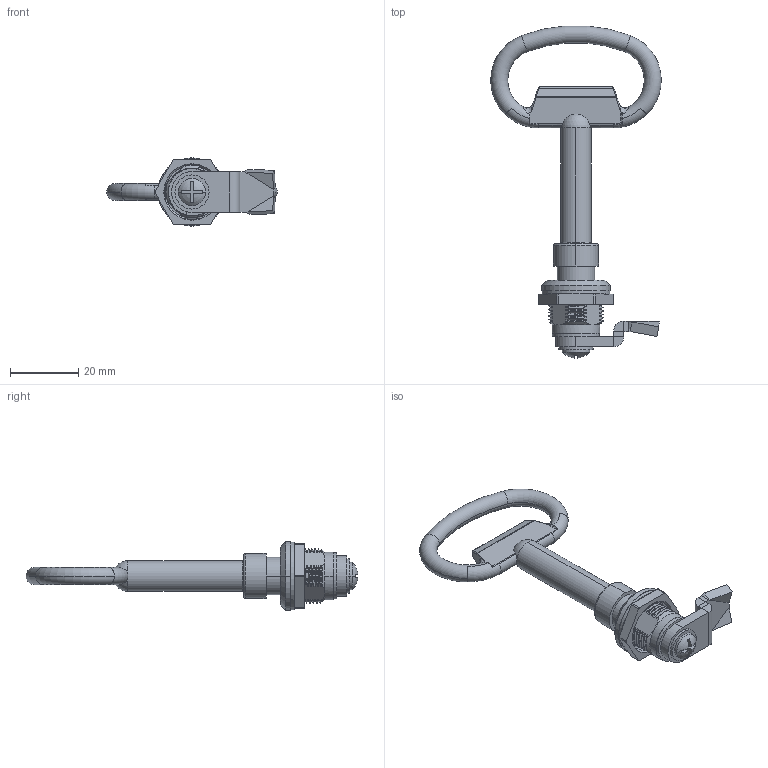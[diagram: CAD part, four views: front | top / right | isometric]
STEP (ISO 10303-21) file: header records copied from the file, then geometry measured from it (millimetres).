
FILE_DESCRIPTION((''),'2;1');
FILE_NAME('3SJ-MS845-7B-0001_ASM','2016-07-07T',('master'),(''),'PRO/ENGINEER BY PARAMETRIC TECHNOLOGY CORPORATION, 2009060','PRO/ENGINEER BY PARAMETRIC TECHNOLOGY CORPORATION, 2009060','');
FILE_SCHEMA(('CONFIG_CONTROL_DESIGN'));
Products named in the file (12): 8SJ-MS845-7-0010; 8SJ-MS845-1-0510; M16X1; 8SJ-MS845-7-0020; D12X1_9_GB_T_3452_1-2005; 8SJ-MS845-2S-0850; 8SJ-MS854-7B-0150; MANIFOLD_SOLID_BREP_1184; D5_GB-T-95-2002; M5X8; 8SJ_K15-7_0290; 3SJ-MS845-7B-0001_ASM
Assembly tree (11 placements, depth 2):
  3SJ-MS845-7B-0001_ASM
    8SJ-MS845-7-0010
    8SJ-MS845-1-0510
    M16X1
    8SJ-MS845-7-0020
    D12X1_9_GB_T_3452_1-2005
    8SJ-MS845-2S-0850
    8SJ-MS854-7B-0150
    MANIFOLD_SOLID_BREP_1184
    D5_GB-T-95-2002
    M5X8
    8SJ_K15-7_0290
Bounding box: 49.98 x 97.33 x 20 mm (x, y, z)
Volume: 11924.9 mm3; surface area: 9150.2 mm2
Topology: 11 solids, 11 shells, 430 faces, 1095 edges, 696 vertices
Faces by surface type: bspline 146, cylinder 128, plane 110, torus 22, cone 20, sphere 4
Entity records: 43984 total; most frequent: CARTESIAN_POINT 34393, ORIENTED_EDGE 2190, DIRECTION 1548, EDGE_CURVE 1095, VERTEX_POINT 696, AXIS2_PLACEMENT_3D 555, EDGE_LOOP 455, VECTOR 438
